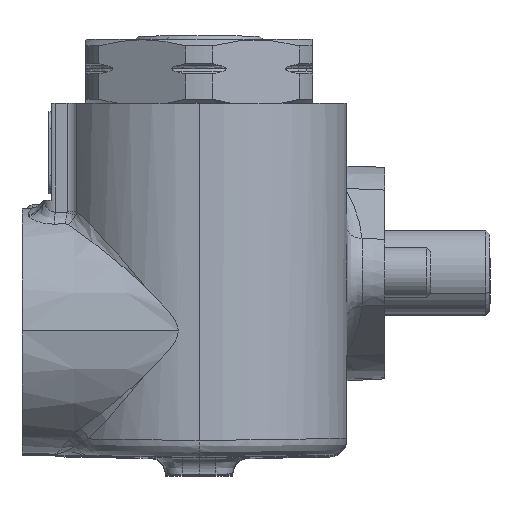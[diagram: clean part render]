
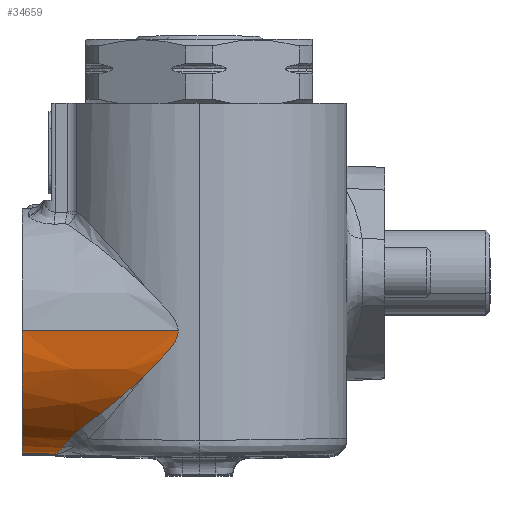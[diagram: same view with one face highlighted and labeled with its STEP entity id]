
A CAD part, top view. The second image highlights one B-rep face of the part: STEP entity #34659.
In plain terms, the highlighted conical face has half-angle 1 degrees and reference radius 14.5 mm.
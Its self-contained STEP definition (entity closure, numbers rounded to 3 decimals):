
#176 = B_SPLINE_CURVE_WITH_KNOTS ( 'NONE', 3,
 ( #22129, #7374, #3772, #6579, #4381, #34190, #12878, #19707, #950, #25104, #13271, #38018, #25494, #3978 ),
 .UNSPECIFIED., .F., .F.,
 ( 4, 2, 2, 2, 2, 2, 4 ),
 ( 0.023, 0.024, 0.025, 0.026, 0.026, 0.028, 0.03 ),
 .UNSPECIFIED. ) ;
#801 = B_SPLINE_CURVE_WITH_KNOTS ( 'NONE', 3,
 ( #21079, #30291, #24267, #36536, #30876, #7123 ),
 .UNSPECIFIED., .F., .F.,
 ( 4, 2, 4 ),
 ( 0., 0.002, 0.003 ),
 .UNSPECIFIED. ) ;
#950 = CARTESIAN_POINT ( 'NONE',  ( 2.043, -9.715, 71.048 ) ) ;
#1374 = CARTESIAN_POINT ( 'NONE',  ( -10.678, -21.297, 59.395 ) ) ;
#1416 = ORIENTED_EDGE ( 'NONE', *, *, #18909, .T. ) ;
#1438 = B_SPLINE_CURVE_WITH_KNOTS ( 'NONE', 3,
 ( #28371, #32586, #31977, #14097, #1374, #23331, #38659, #26554, #32183, #35784 ),
 .UNSPECIFIED., .F., .F.,
 ( 4, 2, 2, 2, 4 ),
 ( 0., 0.002, 0.004, 0.005, 0.007 ),
 .UNSPECIFIED. ) ;
#1858 = CARTESIAN_POINT ( 'NONE',  ( -15., -7., 71. ) ) ;
#2172 = CARTESIAN_POINT ( 'NONE',  ( -0.474, -12.326, 70.259 ) ) ;
#3042 = CIRCLE ( 'NONE', #25533, 14.5 ) ;
#3772 = CARTESIAN_POINT ( 'NONE',  ( 3.448, -7.576, 71.313 ) ) ;
#3978 = CARTESIAN_POINT ( 'NONE',  ( -0.474, -12.326, 70.259 ) ) ;
#4381 = CARTESIAN_POINT ( 'NONE',  ( 3.08, -8.355, 71.255 ) ) ;
#4548 = DIRECTION ( 'NONE',  ( 1., 0., 0.017 ) ) ;
#4710 = VERTEX_POINT ( 'NONE', #17371 ) ;
#4727 = EDGE_CURVE ( 'NONE', #15979, #22812, #3042, .T. ) ;
#4745 = ORIENTED_EDGE ( 'NONE', *, *, #37922, .F. ) ;
#5177 = CARTESIAN_POINT ( 'NONE',  ( -11.198, -21.566, 56.5 ) ) ;
#5275 = DIRECTION ( 'NONE',  ( 0., 0., -1. ) ) ;
#5460 = B_SPLINE_CURVE_WITH_KNOTS ( 'NONE', 3,
 ( #21022, #39722, #15380, #8294, #17600, #11738, #12131, #5684, #29847, #24401 ),
 .UNSPECIFIED., .F., .F.,
 ( 4, 2, 2, 2, 4 ),
 ( 0., 0.003, 0.006, 0.008, 0.011 ),
 .UNSPECIFIED. ) ;
#5560 = ORIENTED_EDGE ( 'NONE', *, *, #13320, .T. ) ;
#5684 = CARTESIAN_POINT ( 'NONE',  ( -1.754, -13.532, 69.72 ) ) ;
#6579 = CARTESIAN_POINT ( 'NONE',  ( 3.225, -8.108, 71.279 ) ) ;
#7123 = CARTESIAN_POINT ( 'NONE',  ( -8.055, -18.576, 65.432 ) ) ;
#7374 = CARTESIAN_POINT ( 'NONE',  ( 3.519, -7.29, 71.323 ) ) ;
#8294 = CARTESIAN_POINT ( 'NONE',  ( -5.619, -16.739, 67.483 ) ) ;
#8466 = CARTESIAN_POINT ( 'NONE',  ( -15., -7., 56.5 ) ) ;
#10403 = ORIENTED_EDGE ( 'NONE', *, *, #34924, .F. ) ;
#10842 = LINE ( 'NONE', #32191, #27819 ) ;
#11738 = CARTESIAN_POINT ( 'NONE',  ( -3.695, -15.195, 68.718 ) ) ;
#12131 = CARTESIAN_POINT ( 'NONE',  ( -3.048, -14.656, 69.076 ) ) ;
#12878 = CARTESIAN_POINT ( 'NONE',  ( 2.586, -9.06, 71.165 ) ) ;
#13271 = CARTESIAN_POINT ( 'NONE',  ( 1.093, -10.752, 70.803 ) ) ;
#13320 = EDGE_CURVE ( 'NONE', #16236, #38330, #1438, .T. ) ;
#13435 = CARTESIAN_POINT ( 'NONE',  ( -15., -7., 71. ) ) ;
#14097 = CARTESIAN_POINT ( 'NONE',  ( -10.798, -21.398, 58.826 ) ) ;
#14568 = DIRECTION ( 'NONE',  ( 0., 0., 1. ) ) ;
#15380 = CARTESIAN_POINT ( 'NONE',  ( -6.863, -17.695, 66.523 ) ) ;
#15605 = EDGE_CURVE ( 'NONE', #38330, #4710, #801, .T. ) ;
#15979 = VERTEX_POINT ( 'NONE', #1858 ) ;
#16236 = VERTEX_POINT ( 'NONE', #5177 ) ;
#16239 = VERTEX_POINT ( 'NONE', #2172 ) ;
#17308 = DIRECTION ( 'NONE',  ( -1., 0.017, 0. ) ) ;
#17371 = CARTESIAN_POINT ( 'NONE',  ( -8.055, -18.576, 65.432 ) ) ;
#17600 = CARTESIAN_POINT ( 'NONE',  ( -4.98, -16.236, 67.923 ) ) ;
#18909 = EDGE_CURVE ( 'NONE', #4710, #16239, #5460, .T. ) ;
#19707 = CARTESIAN_POINT ( 'NONE',  ( 2.228, -9.501, 71.09 ) ) ;
#20072 = LINE ( 'NONE', #13435, #36796 ) ;
#21022 = CARTESIAN_POINT ( 'NONE',  ( -8.055, -18.576, 65.432 ) ) ;
#21079 = CARTESIAN_POINT ( 'NONE',  ( -9.52, -19.989, 63.157 ) ) ;
#22129 = CARTESIAN_POINT ( 'NONE',  ( 3.519, -7., 71.323 ) ) ;
#22459 = VERTEX_POINT ( 'NONE', #38034 ) ;
#22492 = CARTESIAN_POINT ( 'NONE',  ( -15., -21.5, 56.5 ) ) ;
#22812 = VERTEX_POINT ( 'NONE', #22492 ) ;
#23331 = CARTESIAN_POINT ( 'NONE',  ( -10.396, -21.028, 60.517 ) ) ;
#24267 = CARTESIAN_POINT ( 'NONE',  ( -9.159, -19.535, 64.002 ) ) ;
#24401 = CARTESIAN_POINT ( 'NONE',  ( -0.474, -12.326, 70.259 ) ) ;
#24492 = ORIENTED_EDGE ( 'NONE', *, *, #31539, .F. ) ;
#25104 = CARTESIAN_POINT ( 'NONE',  ( 1.48, -10.346, 70.91 ) ) ;
#25494 = CARTESIAN_POINT ( 'NONE',  ( -0.08, -11.94, 70.415 ) ) ;
#25533 = AXIS2_PLACEMENT_3D ( 'NONE', #8466, #32861, #5275 ) ;
#26554 = CARTESIAN_POINT ( 'NONE',  ( -9.89, -20.47, 62.134 ) ) ;
#27819 = VECTOR ( 'NONE', #17308, 1000. ) ;
#28371 = CARTESIAN_POINT ( 'NONE',  ( -11.198, -21.566, 56.5 ) ) ;
#29099 = AXIS2_PLACEMENT_3D ( 'NONE', #35434, #36416, #14568 ) ;
#29411 = EDGE_LOOP ( 'NONE', ( #4745, #30362, #10403, #5560, #29472, #1416, #24492 ) ) ;
#29472 = ORIENTED_EDGE ( 'NONE', *, *, #15605, .T. ) ;
#29847 = CARTESIAN_POINT ( 'NONE',  ( -1.107, -12.947, 70.006 ) ) ;
#30291 = CARTESIAN_POINT ( 'NONE',  ( -9.36, -19.768, 63.595 ) ) ;
#30362 = ORIENTED_EDGE ( 'NONE', *, *, #4727, .T. ) ;
#30876 = CARTESIAN_POINT ( 'NONE',  ( -8.383, -18.815, 65.113 ) ) ;
#31539 = EDGE_CURVE ( 'NONE', #22459, #16239, #176, .T. ) ;
#31977 = CARTESIAN_POINT ( 'NONE',  ( -11.01, -21.534, 57.672 ) ) ;
#32029 = FACE_OUTER_BOUND ( 'NONE', #29411, .T. ) ;
#32183 = CARTESIAN_POINT ( 'NONE',  ( -9.704, -20.245, 62.651 ) ) ;
#32191 = CARTESIAN_POINT ( 'NONE',  ( -17., -21.465, 56.5 ) ) ;
#32238 = CONICAL_SURFACE ( 'NONE', #29099, 14.5, 0.017 ) ;
#32586 = CARTESIAN_POINT ( 'NONE',  ( -11.103, -21.568, 57.088 ) ) ;
#32861 = DIRECTION ( 'NONE',  ( 1., 0., 0. ) ) ;
#33743 = CARTESIAN_POINT ( 'NONE',  ( -9.52, -19.989, 63.157 ) ) ;
#34190 = CARTESIAN_POINT ( 'NONE',  ( 2.76, -8.831, 71.198 ) ) ;
#34659 = ADVANCED_FACE ( 'NONE', ( #32029 ), #32238, .T. ) ;
#34924 = EDGE_CURVE ( 'NONE', #16236, #22812, #10842, .T. ) ;
#35434 = CARTESIAN_POINT ( 'NONE',  ( -15., -7., 56.5 ) ) ;
#35784 = CARTESIAN_POINT ( 'NONE',  ( -9.52, -19.989, 63.157 ) ) ;
#36416 = DIRECTION ( 'NONE',  ( 1., 0., 0. ) ) ;
#36536 = CARTESIAN_POINT ( 'NONE',  ( -8.672, -19.06, 64.76 ) ) ;
#36796 = VECTOR ( 'NONE', #4548, 1000. ) ;
#37922 = EDGE_CURVE ( 'NONE', #15979, #22459, #20072, .T. ) ;
#38018 = CARTESIAN_POINT ( 'NONE',  ( 0.313, -11.549, 70.555 ) ) ;
#38034 = CARTESIAN_POINT ( 'NONE',  ( 3.519, -7., 71.323 ) ) ;
#38330 = VERTEX_POINT ( 'NONE', #33743 ) ;
#38659 = CARTESIAN_POINT ( 'NONE',  ( -10.236, -20.861, 61.068 ) ) ;
#39722 = CARTESIAN_POINT ( 'NONE',  ( -7.469, -18.149, 66.002 ) ) ;
